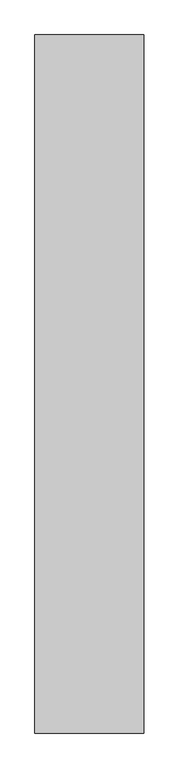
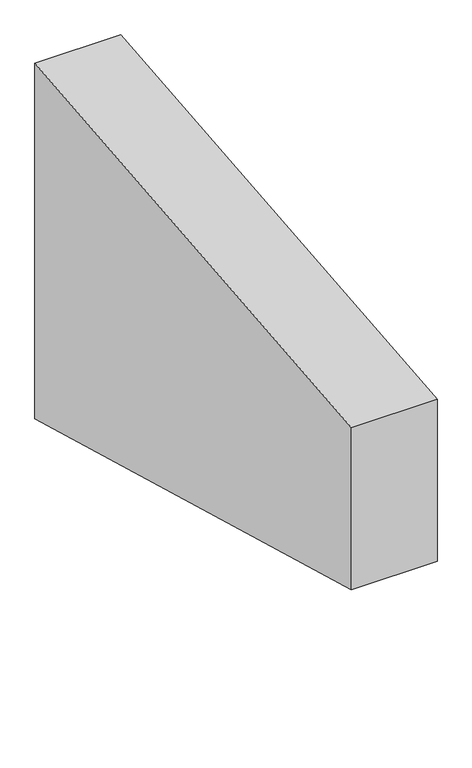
"""IFC4 building model written with IfcOpenShell, lengths in millimetres: beam geometry, mensola4 : mensola."""

from ifc_helpers import new_model, si_unit, frame, origin, place, context, project, spatial, polyline, outline, extrude, source, transform, mapped, element, save


def beam_e991850b(model_context):
    return source(origin(), model_context, "Body", "SweptSolid", [
        extrude(outline(polyline([(23913.3920265, -5124.2740657), (23913.3920265, -4624.2740657), (25513.3893107, -4470.0), (25513.3893107, -5566.6914971), (23913.3920265, -5124.2740657)])), frame((-596.2723874, 0.0, 0.0), z_axis=(1.0, 0.0, 0.0), x_axis=(0.0, 1.0, 0.0)), (0.0, 0.0, 1.0), 250.0),
    ])


if __name__ == "__main__":
    model = new_model("IFC4")
    model_context = context("Model", 3, world=origin())
    ifc_project = project(units=[si_unit("LENGTHUNIT", "METRE", prefix="MILLI")], contexts=[model_context])
    site = spatial("IfcSite", under=ifc_project)
    building = spatial("IfcBuilding", under=site)
    placement = place(None, origin())
    beam_shape = beam_e991850b(model_context)
    element("IfcBeam", 1, ObjectType="mensola4 : mensola", at=placement, inside=building, context=model_context, shape_type="MappedRepresentation", body=[
        mapped(beam_shape, transform((0.0, 0.0, 0.0), x_axis=(1.0, 0.0, 0.0), y_axis=(0.0, 1.0, 0.0), z_axis=(0.0, 0.0, 1.0))),
    ])
    save(model, "model.ifc")
